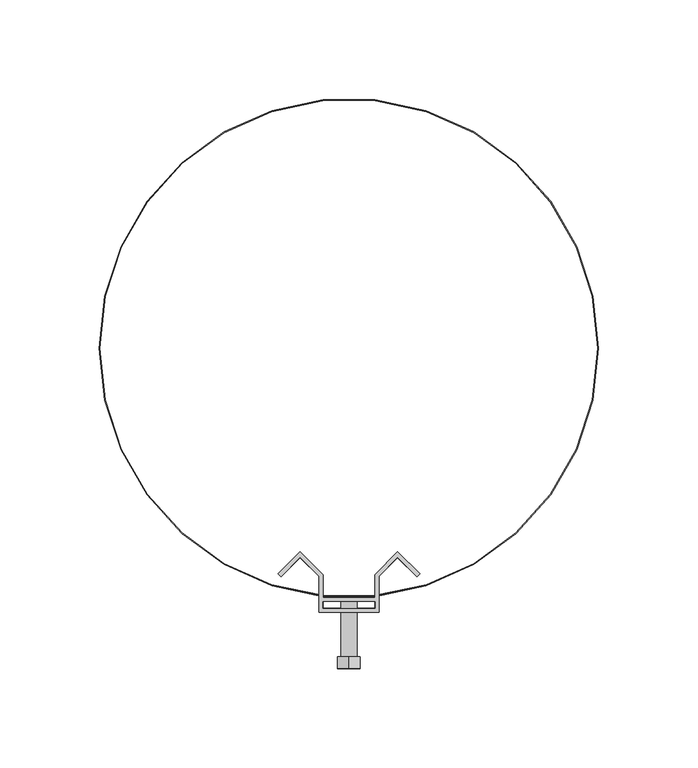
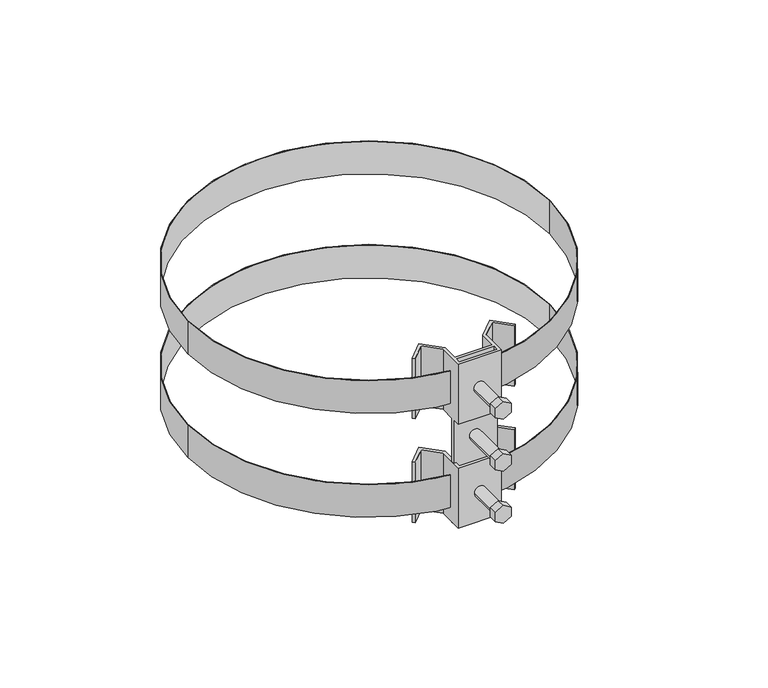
"""IFC4 building model written with IfcOpenShell, lengths in millimetres: proxy geometry, КНС_ХомутДвойнойТрубныйДляИзолированнойМачты_DKC : NK3104_Нержавеющая сталь_D500."""

from ifc_helpers import new_model, si_unit, point, frame, frame_2d, origin, origin_2d, place, context, project, spatial, polyline, circle_curve, trimmed, segment, composite_curve, outline, extrude, faceted_brep, source, transform, mapped, element, save


def security_devices_0aeedfa1(model_context):
    return source(origin(), model_context, "Body", "SolidModel", [
        extrude(outline(polyline([(-24.5148443, -105.2143378), (-34.1969759, -114.8964694), (-35.6111894, -113.4822559), (-24.5148443, -102.3859107), (-13.0, -113.900755), (-13.0, -130.8323522), (13.0, -130.8323522), (13.0, -113.900755), (24.5148443, -102.3859107), (35.6111894, -113.4822559), (34.1969759, -114.8964694), (24.5148443, -105.2143378), (15.0, -114.7291821), (15.0, -132.8323522), (-15.0, -132.8323522), (-15.0, -114.7291821), (-24.5148443, -105.2143378)])), frame((0.0, 0.0, -60.0), z_axis=(0.0, 0.0, 1.0), x_axis=(1.0, 0.0, 0.0)), (0.0, 0.0, 1.0), 44.0),
        extrude(outline(composite_curve([segment(trimmed(circle_curve(frame_2d((-38.0, 0.0)), 4.0), [point((-38.0, -4.0))], [point((-38.0, 4.0))], False, "CARTESIAN"), True, "CONTINUOUS"), segment(trimmed(circle_curve(frame_2d((-38.0, 0.0)), 4.0), [point((-38.0, 4.0))], [point((-38.0, -4.0))], False, "CARTESIAN"), True, "CONTINUOUS")], self_intersect=False)), frame((0.0, -155.0, 0.0), z_axis=(0.0, 1.0, 0.0), x_axis=(0.0, 0.0, 1.0)), (0.0, 0.0, 1.0), 30.0),
        extrude(outline(polyline([(-34.7486159, -5.6315625), (-41.2513841, -5.6315625), (-44.5027683, 0.0), (-41.2513841, 5.6315625), (-34.7486159, 5.6315625), (-31.4972317, 0.0), (-34.7486159, -5.6315625)])), frame((0.0, -161.0, 0.0), z_axis=(0.0, 1.0, 0.0), x_axis=(0.0, 0.0, 1.0)), (0.0, 0.0, 1.0), 6.0),
        extrude(outline(composite_curve([segment(trimmed(circle_curve(origin_2d(), 4.0), [point((0.0, -4.0))], [point((0.0, 4.0))], False, "CARTESIAN"), True, "CONTINUOUS"), segment(trimmed(circle_curve(origin_2d(), 4.0), [point((0.0, 4.0))], [point((0.0, -4.0))], False, "CARTESIAN"), True, "CONTINUOUS")], self_intersect=False)), frame((0.0, -155.0, 0.0), z_axis=(0.0, 1.0, 0.0), x_axis=(0.0, 0.0, 1.0)), (0.0, 0.0, 1.0), 30.0),
        extrude(outline(polyline([(3.2513841, -5.6315625), (-3.2513841, -5.6315625), (-6.5027683, 0.0), (-3.2513841, 5.6315625), (3.2513841, 5.6315625), (6.5027683, 0.0), (3.2513841, -5.6315625)])), frame((0.0, -161.0, 0.0), z_axis=(0.0, 1.0, 0.0), x_axis=(0.0, 0.0, 1.0)), (0.0, 0.0, 1.0), 6.0),
        extrude(outline(composite_curve([segment(trimmed(circle_curve(frame_2d((38.0, 0.0)), 4.0), [point((38.0, -4.0))], [point((38.0, 4.0))], False, "CARTESIAN"), True, "CONTINUOUS"), segment(trimmed(circle_curve(frame_2d((38.0, 0.0)), 4.0), [point((38.0, 4.0))], [point((38.0, -4.0))], False, "CARTESIAN"), True, "CONTINUOUS")], self_intersect=False)), frame((0.0, -155.0, 0.0), z_axis=(0.0, 1.0, 0.0), x_axis=(0.0, 0.0, 1.0)), (0.0, 0.0, 1.0), 30.0),
        extrude(outline(polyline([(41.2513841, -5.6315625), (34.7486159, -5.6315625), (31.4972317, 0.0), (34.7486159, 5.6315625), (41.2513841, 5.6315625), (44.5027683, 0.0), (41.2513841, -5.6315625)])), frame((0.0, -161.0, 0.0), z_axis=(0.0, 1.0, 0.0), x_axis=(0.0, 0.0, 1.0)), (0.0, 0.0, 1.0), 6.0),
        faceted_brep([(-24.5148443, -105.2143378, 60.0), (-15.0, -114.7291821, 60.0), (-15.0, -132.8323522, 60.0), (15.0, -132.8323522, 60.0), (15.0, -114.7291821, 60.0), (24.5148443, -105.2143378, 60.0), (34.1969759, -114.8964694, 60.0), (35.6111894, -113.4822559, 60.0), (24.5148443, -102.3859107, 60.0), (13.0, -113.900755, 60.0), (13.0, -125.5, 60.0), (-13.0, -125.5, 60.0), (-13.0, -113.900755, 60.0), (-24.5148443, -102.3859107, 60.0), (-35.6111894, -113.4822559, 60.0), (-34.1969759, -114.8964694, 60.0), (-13.0, -130.8323522, 60.0), (-13.0, -127.5, 60.0), (13.0, -127.5, 60.0), (13.0, -130.8323522, 60.0), (-24.5148443, -105.2143378, 16.0), (-34.1969759, -114.8964694, 16.0), (-35.6111894, -113.4822559, 16.0), (-24.5148443, -102.3859107, 16.0), (-13.0, -113.900755, 16.0), (-13.0, -125.5, 16.0), (-15.0, -125.5, 16.0), (-15.0, -114.7291821, 16.0), (-13.0, -130.8323522, 16.0), (13.0, -130.8323522, 16.0), (13.0, -127.5, 16.0), (15.0, -127.5, 16.0), (15.0, -132.8323522, 16.0), (-15.0, -132.8323522, 16.0), (-15.0, -127.5, 16.0), (-13.0, -127.5, 16.0), (13.0, -113.900755, 16.0), (24.5148443, -102.3859107, 16.0), (35.6111894, -113.4822559, 16.0), (34.1969759, -114.8964694, 16.0), (24.5148443, -105.2143378, 16.0), (15.0, -114.7291821, 16.0), (15.0, -125.5, 16.0), (13.0, -125.5, 16.0), (-15.0, -125.5, -60.0), (-15.0, -127.5, -60.0), (15.0, -127.5, -60.0), (15.0, -125.5, -60.0)], [[[0, 1, 2, 3, 4, 5, 6, 7, 8, 9, 10, 11, 12, 13, 14, 15], [16, 17, 18, 19]], [[20, 21, 22, 23, 24, 25, 26, 27]], [[28, 29, 30, 31, 32, 33, 34, 35]], [[36, 37, 38, 39, 40, 41, 42, 43]], [[1, 0, 20, 27]], [[2, 1, 27, 26, 44, 45, 34, 33]], [[3, 2, 33, 32]], [[4, 3, 32, 31, 46, 47, 42, 41]], [[5, 4, 41, 40]], [[6, 5, 40, 39]], [[7, 6, 39, 38]], [[8, 7, 38, 37]], [[9, 8, 37, 36]], [[9, 36, 43, 10]], [[29, 19, 18, 30]], [[16, 19, 29, 28]], [[16, 28, 35, 17]], [[24, 12, 11, 25]], [[13, 12, 24, 23]], [[14, 13, 23, 22]], [[15, 14, 22, 21]], [[0, 15, 21, 20]], [[44, 47, 46, 45]], [[45, 46, 31, 30, 18, 17, 35, 34]], [[47, 44, 26, 25, 11, 10, 43, 42]]]),
        extrude(outline(composite_curve([segment(trimmed(circle_curve(origin_2d(), 125.5), [point((-125.5, 0.0))], [point((125.5, 0.0))], False, "CARTESIAN"), True, "CONTINUOUS"), segment(trimmed(circle_curve(origin_2d(), 125.5), [point((125.5, 0.0))], [point((-125.5, 0.0))], False, "CARTESIAN"), True, "CONTINUOUS")], self_intersect=False), holes=[composite_curve([segment(trimmed(circle_curve(origin_2d(), 125.0), [point((-125.0, 0.0))], [point((125.0, 0.0))], True, "CARTESIAN"), True, "CONTINUOUS"), segment(trimmed(circle_curve(origin_2d(), 125.0), [point((125.0, 0.0))], [point((-125.0, 0.0))], True, "CARTESIAN"), True, "CONTINUOUS")], self_intersect=False)]), frame((0.0, 0.0, -50.0), z_axis=(0.0, 0.0, 1.0), x_axis=(1.0, 0.0, 0.0)), (0.0, 0.0, 1.0), 24.0),
        extrude(outline(composite_curve([segment(trimmed(circle_curve(origin_2d(), 125.5), [point((-125.5, 0.0))], [point((125.5, 0.0))], False, "CARTESIAN"), True, "CONTINUOUS"), segment(trimmed(circle_curve(origin_2d(), 125.5), [point((125.5, 0.0))], [point((-125.5, 0.0))], False, "CARTESIAN"), True, "CONTINUOUS")], self_intersect=False), holes=[composite_curve([segment(trimmed(circle_curve(origin_2d(), 125.0), [point((-125.0, 0.0))], [point((125.0, 0.0))], True, "CARTESIAN"), True, "CONTINUOUS"), segment(trimmed(circle_curve(origin_2d(), 125.0), [point((125.0, 0.0))], [point((-125.0, 0.0))], True, "CARTESIAN"), True, "CONTINUOUS")], self_intersect=False)]), frame((0.0, 0.0, 26.0), z_axis=(0.0, 0.0, 1.0), x_axis=(1.0, 0.0, 0.0)), (0.0, 0.0, 1.0), 24.0),
    ])


if __name__ == "__main__":
    model = new_model("IFC4")
    model_context = context("Model", 3, world=origin())
    ifc_project = project(units=[si_unit("LENGTHUNIT", "METRE", prefix="MILLI")], contexts=[model_context])
    site = spatial("IfcSite", under=ifc_project)
    building = spatial("IfcBuilding", under=site)
    placement = place(None, origin())
    security_devices_shape = security_devices_0aeedfa1(model_context)
    element("IfcBuildingElementProxy", 1, Name="КНС_ХомутДвойнойТрубныйДляИзолированнойМачты_DKC : NK3104_Нержавеющая сталь_D500", ObjectType="КНС_ХомутДвойнойТрубныйДляИзолированнойМачты_DKC : NK3104_Нержавеющая сталь_D500", at=placement, inside=building, context=model_context, shape_type="MappedRepresentation", body=[
        mapped(security_devices_shape, transform((0.0, 0.0, 0.0), x_axis=(1.0, 0.0, 0.0), y_axis=(0.0, 1.0, 0.0), z_axis=(0.0, 0.0, 1.0))),
    ])
    save(model, "model.ifc")
